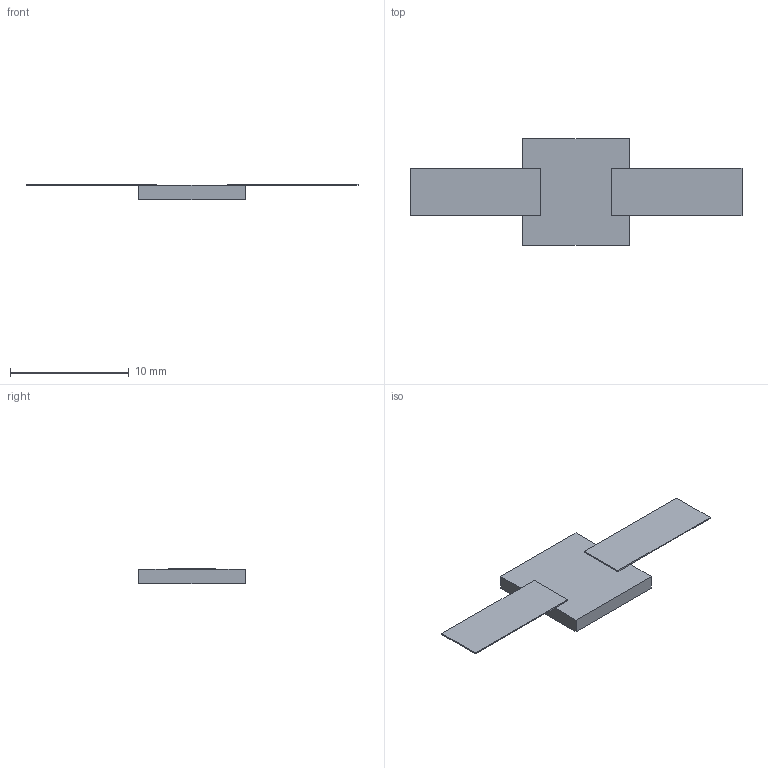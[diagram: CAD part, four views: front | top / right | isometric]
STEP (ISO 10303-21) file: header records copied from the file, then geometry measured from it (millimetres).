
FILE_DESCRIPTION(('STEP AP203'), '1');
FILE_NAME('Ð1-17-250-1', '', ('UNSPECIFIED'), ('UNSPECIFIED'), 'ASCON STEP Converter 1.6', 'ASCON Math Kernel', '');
FILE_SCHEMA(('CONFIG_CONTROL_DESIGN'));
Length unit declared in the file: millimetre
Bounding box: 28 x 9 x 1.3 mm (x, y, z)
Volume: 106 mm3; surface area: 372.6 mm2
Topology: 1 solids, 2 shells, 37 faces, 95 edges, 62 vertices
Faces by surface type: plane 33, cylinder 4
Entity records: 1447 total; most frequent: CARTESIAN_POINT 195, ORIENTED_EDGE 190, DIRECTION 179, EDGE_CURVE 95, LINE 87, VECTOR 87, VERTEX_POINT 62, AXIS2_PLACEMENT_3D 46
